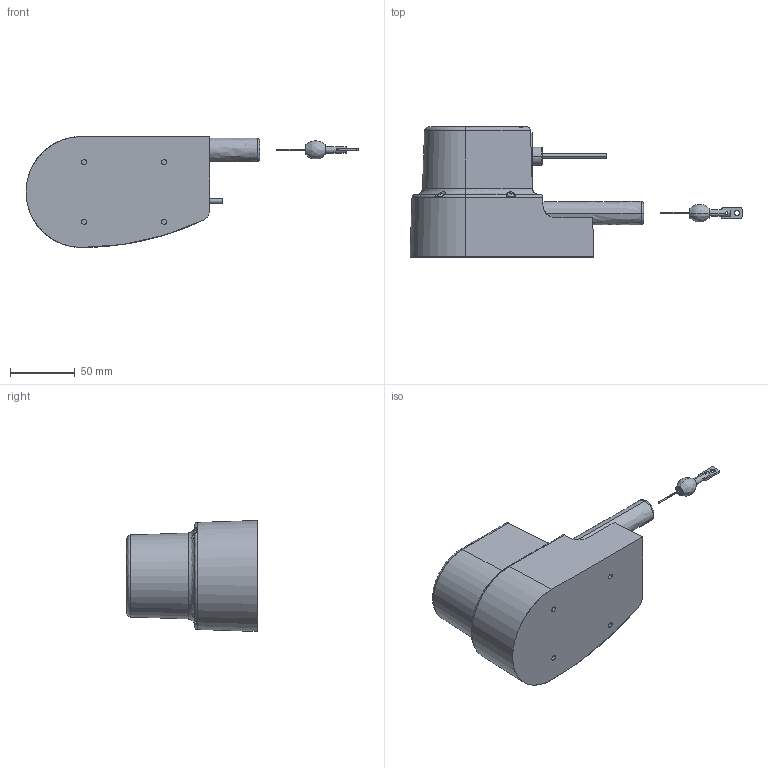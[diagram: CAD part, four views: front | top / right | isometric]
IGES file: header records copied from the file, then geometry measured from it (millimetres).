
Start section: SolidWorks IGES file using analytic representation for surfaces
Bounding box: 257.22 x 100.8 x 86 mm (x, y, z)
Surface area: 58496.6 mm2 (no closed solid volume)
Topology: 0 solids, 0 shells, 284 faces, 4645 edges, 4645 vertices
Faces by surface type: bspline 180, revolution 104
